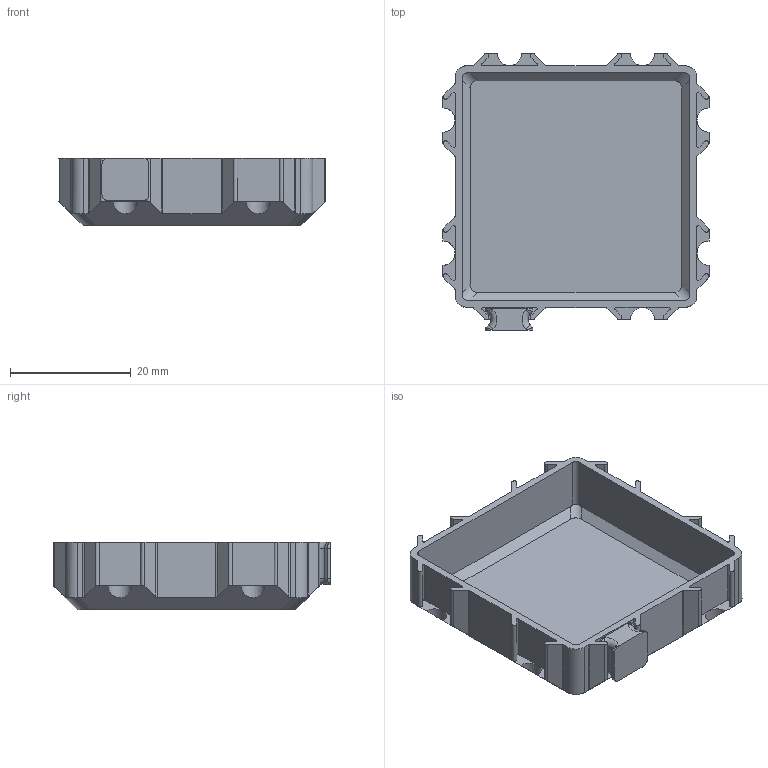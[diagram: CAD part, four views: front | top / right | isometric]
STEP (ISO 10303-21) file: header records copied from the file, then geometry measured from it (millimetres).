
FILE_DESCRIPTION(/* description */ (''),/* implementation_level */ '2;1');
FILE_NAME(/* name */ 'BOX_x02_y02_z010_tx0_ty0.stp',/* time_stamp */ '2024-02-16T08:37:16+01:00',/* author */ ('ott'),/* organization */ (''),/* preprocessor_version */ 'ST-DEVELOPER v19.2',/* originating_system */ 'Autodesk Inventor 2023',/* authorisation */ '');
FILE_SCHEMA (('AUTOMOTIVE_DESIGN { 1 0 10303 214 3 1 1 }'));
Length unit declared in the file: millimetre
Products named in the file (1): BOX_x02_y02_z010_tx0_ty0
Bounding box: 44 x 45.8 x 11.2 mm (x, y, z)
Volume: 4109.2 mm3; surface area: 6996.7 mm2
Topology: 2 solids, 2 shells, 179 faces, 500 edges, 326 vertices
Faces by surface type: plane 95, cylinder 80, torus 4
Entity records: 6084 total; most frequent: CARTESIAN_POINT 1094, DIRECTION 1036, ORIENTED_EDGE 1000, EDGE_CURVE 500, AXIS2_PLACEMENT_3D 364, VERTEX_POINT 326, LINE 308, VECTOR 308
